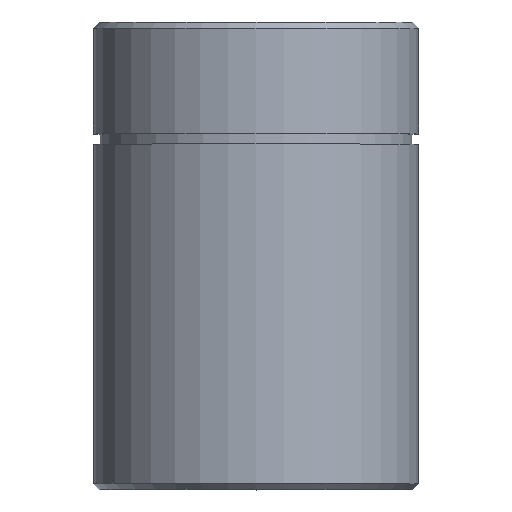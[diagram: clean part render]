
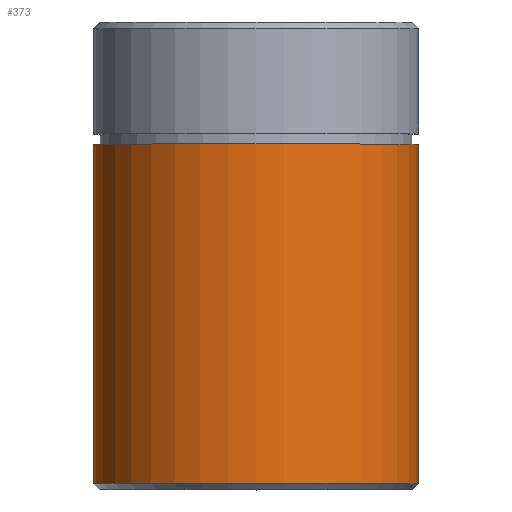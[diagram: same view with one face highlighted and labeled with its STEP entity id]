
A CAD part, top view. The second image highlights one B-rep face of the part: STEP entity #373.
In plain terms, the highlighted cylindrical face has radius 8 mm (diameter 16 mm), a partial arc.
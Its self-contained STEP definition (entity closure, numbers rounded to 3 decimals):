
#13 = DIRECTION ( 'NONE',  ( 1., 0., 0. ) ) ;
#30 = DIRECTION ( 'NONE',  ( 0., -1., 0. ) ) ;
#62 = ORIENTED_EDGE ( 'NONE', *, *, #715, .F. ) ;
#79 = LINE ( 'NONE', #138, #363 ) ;
#95 = VERTEX_POINT ( 'NONE', #214 ) ;
#112 = DIRECTION ( 'NONE',  ( 0., -1., 0. ) ) ;
#115 = FACE_OUTER_BOUND ( 'NONE', #406, .T. ) ;
#125 = DIRECTION ( 'NONE',  ( -1., 0., 0. ) ) ;
#128 = AXIS2_PLACEMENT_3D ( 'NONE', #514, #675, #338 ) ;
#129 = CIRCLE ( 'NONE', #257, 8. ) ;
#138 = CARTESIAN_POINT ( 'NONE',  ( 8., 0., 0. ) ) ;
#198 = CARTESIAN_POINT ( 'NONE',  ( 0., 17., 0. ) ) ;
#214 = CARTESIAN_POINT ( 'NONE',  ( -8., 0.3, 0. ) ) ;
#231 = VERTEX_POINT ( 'NONE', #448 ) ;
#236 = DIRECTION ( 'NONE',  ( 0., 1., 0. ) ) ;
#257 = AXIS2_PLACEMENT_3D ( 'NONE', #475, #236, #125 ) ;
#262 = LINE ( 'NONE', #681, #368 ) ;
#263 = CIRCLE ( 'NONE', #439, 8. ) ;
#290 = CARTESIAN_POINT ( 'NONE',  ( 8., 0.3, 0. ) ) ;
#305 = DIRECTION ( 'NONE',  ( 0., -1., 0. ) ) ;
#338 = DIRECTION ( 'NONE',  ( 1., 0., 0. ) ) ;
#363 = VECTOR ( 'NONE', #30, 1000. ) ;
#368 = VECTOR ( 'NONE', #112, 1000. ) ;
#371 = EDGE_CURVE ( 'NONE', #231, #95, #262, .T. ) ;
#373 = ADVANCED_FACE ( 'NONE', ( #115 ), #525, .T. ) ;
#406 = EDGE_LOOP ( 'NONE', ( #553, #467, #591, #62 ) ) ;
#428 = VERTEX_POINT ( 'NONE', #290 ) ;
#439 = AXIS2_PLACEMENT_3D ( 'NONE', #198, #305, #13 ) ;
#448 = CARTESIAN_POINT ( 'NONE',  ( -8., 17., 0. ) ) ;
#467 = ORIENTED_EDGE ( 'NONE', *, *, #371, .T. ) ;
#475 = CARTESIAN_POINT ( 'NONE',  ( 0., 0.3, 0. ) ) ;
#514 = CARTESIAN_POINT ( 'NONE',  ( 0., 0., 0. ) ) ;
#525 = CYLINDRICAL_SURFACE ( 'NONE', #128, 8. ) ;
#538 = CARTESIAN_POINT ( 'NONE',  ( 8., 17., 0. ) ) ;
#553 = ORIENTED_EDGE ( 'NONE', *, *, #692, .T. ) ;
#576 = EDGE_CURVE ( 'NONE', #95, #428, #129, .T. ) ;
#591 = ORIENTED_EDGE ( 'NONE', *, *, #576, .T. ) ;
#663 = VERTEX_POINT ( 'NONE', #538 ) ;
#675 = DIRECTION ( 'NONE',  ( 0., -1., 0. ) ) ;
#681 = CARTESIAN_POINT ( 'NONE',  ( -8., 0., 0. ) ) ;
#692 = EDGE_CURVE ( 'NONE', #663, #231, #263, .T. ) ;
#715 = EDGE_CURVE ( 'NONE', #663, #428, #79, .T. ) ;
